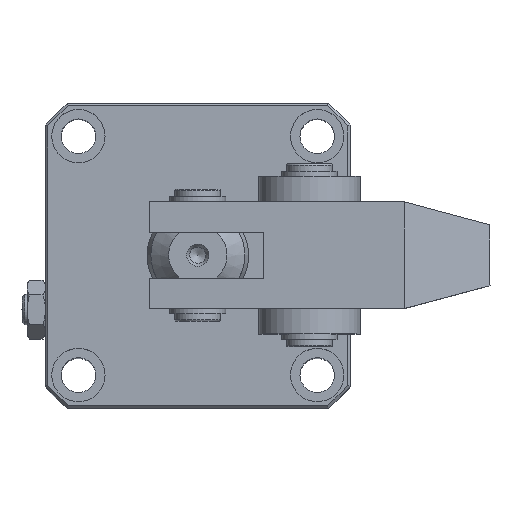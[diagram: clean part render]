
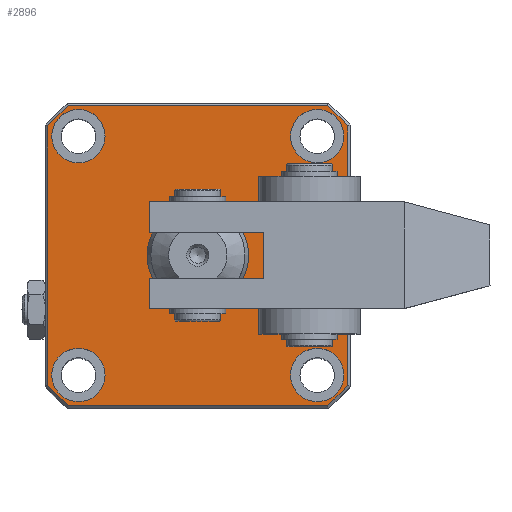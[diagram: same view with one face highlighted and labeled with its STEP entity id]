
A CAD part, top view. The second image highlights one B-rep face of the part: STEP entity #2896.
In plain terms, the highlighted planar face has unit normal (0, 0, 1).
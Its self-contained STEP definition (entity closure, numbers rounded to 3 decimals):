
#287=LINE('',#4420,#440);
#288=LINE('',#4423,#441);
#289=LINE('',#4425,#442);
#290=LINE('',#4429,#443);
#291=LINE('',#4433,#444);
#292=LINE('',#4437,#445);
#293=LINE('',#4441,#446);
#294=LINE('',#4443,#447);
#440=VECTOR('',#3553,1000.);
#441=VECTOR('',#3554,1000.);
#442=VECTOR('',#3555,1000.);
#443=VECTOR('',#3558,1000.);
#444=VECTOR('',#3561,1000.);
#445=VECTOR('',#3564,1000.);
#446=VECTOR('',#3567,1000.);
#447=VECTOR('',#3568,1000.);
#593=ORIENTED_EDGE('',*,*,#1377,.F.);
#594=ORIENTED_EDGE('',*,*,#1378,.F.);
#595=ORIENTED_EDGE('',*,*,#1379,.F.);
#596=ORIENTED_EDGE('',*,*,#1380,.F.);
#597=ORIENTED_EDGE('',*,*,#1381,.T.);
#598=ORIENTED_EDGE('',*,*,#1382,.T.);
#599=ORIENTED_EDGE('',*,*,#1383,.T.);
#600=ORIENTED_EDGE('',*,*,#1384,.T.);
#601=ORIENTED_EDGE('',*,*,#1385,.T.);
#602=ORIENTED_EDGE('',*,*,#1386,.T.);
#603=ORIENTED_EDGE('',*,*,#1387,.T.);
#604=ORIENTED_EDGE('',*,*,#1388,.T.);
#605=ORIENTED_EDGE('',*,*,#1389,.T.);
#606=ORIENTED_EDGE('',*,*,#1390,.T.);
#607=ORIENTED_EDGE('',*,*,#1391,.T.);
#608=ORIENTED_EDGE('',*,*,#1392,.T.);
#609=ORIENTED_EDGE('',*,*,#1393,.F.);
#1377=EDGE_CURVE('',#1769,#1769,#2043,.T.);
#1378=EDGE_CURVE('',#1770,#1770,#2044,.T.);
#1379=EDGE_CURVE('',#1771,#1771,#2045,.T.);
#1380=EDGE_CURVE('',#1772,#1772,#2046,.T.);
#1381=EDGE_CURVE('',#1773,#1773,#2047,.T.);
#1382=EDGE_CURVE('',#1774,#1775,#287,.T.);
#1383=EDGE_CURVE('',#1775,#1776,#288,.T.);
#1384=EDGE_CURVE('',#1776,#1777,#289,.T.);
#1385=EDGE_CURVE('',#1777,#1778,#2048,.T.);
#1386=EDGE_CURVE('',#1778,#1779,#290,.T.);
#1387=EDGE_CURVE('',#1779,#1780,#2049,.T.);
#1388=EDGE_CURVE('',#1780,#1781,#291,.T.);
#1389=EDGE_CURVE('',#1781,#1782,#2050,.T.);
#1390=EDGE_CURVE('',#1782,#1783,#292,.T.);
#1391=EDGE_CURVE('',#1783,#1784,#2051,.T.);
#1392=EDGE_CURVE('',#1784,#1785,#293,.T.);
#1393=EDGE_CURVE('',#1774,#1785,#294,.T.);
#1769=VERTEX_POINT('',#4411);
#1770=VERTEX_POINT('',#4413);
#1771=VERTEX_POINT('',#4415);
#1772=VERTEX_POINT('',#4417);
#1773=VERTEX_POINT('',#4419);
#1774=VERTEX_POINT('',#4421);
#1775=VERTEX_POINT('',#4422);
#1776=VERTEX_POINT('',#4424);
#1777=VERTEX_POINT('',#4426);
#1778=VERTEX_POINT('',#4428);
#1779=VERTEX_POINT('',#4430);
#1780=VERTEX_POINT('',#4432);
#1781=VERTEX_POINT('',#4434);
#1782=VERTEX_POINT('',#4436);
#1783=VERTEX_POINT('',#4438);
#1784=VERTEX_POINT('',#4440);
#1785=VERTEX_POINT('',#4442);
#2043=CIRCLE('',#3183,5.25);
#2044=CIRCLE('',#3184,5.25);
#2045=CIRCLE('',#3185,5.25);
#2046=CIRCLE('',#3186,5.25);
#2047=CIRCLE('',#3187,10.);
#2048=CIRCLE('',#3188,39.);
#2049=CIRCLE('',#3189,39.);
#2050=CIRCLE('',#3190,39.);
#2051=CIRCLE('',#3191,39.);
#2191=EDGE_LOOP('',(#593));
#2192=EDGE_LOOP('',(#594));
#2193=EDGE_LOOP('',(#595));
#2194=EDGE_LOOP('',(#596));
#2195=EDGE_LOOP('',(#597));
#2196=EDGE_LOOP('',(#598,#599,#600,#601,#602,#603,#604,#605,#606,#607,#608,
#609));
#2494=FACE_BOUND('',#2191,.T.);
#2495=FACE_BOUND('',#2192,.T.);
#2496=FACE_BOUND('',#2193,.T.);
#2497=FACE_BOUND('',#2194,.T.);
#2498=FACE_BOUND('',#2195,.T.);
#2499=FACE_BOUND('',#2196,.T.);
#2798=PLANE('',#3182);
#2896=ADVANCED_FACE('',(#2494,#2495,#2496,#2497,#2498,#2499),#2798,.T.);
#3182=AXIS2_PLACEMENT_3D('',#4409,#3541,#3542);
#3183=AXIS2_PLACEMENT_3D('',#4410,#3543,#3544);
#3184=AXIS2_PLACEMENT_3D('',#4412,#3545,#3546);
#3185=AXIS2_PLACEMENT_3D('',#4414,#3547,#3548);
#3186=AXIS2_PLACEMENT_3D('',#4416,#3549,#3550);
#3187=AXIS2_PLACEMENT_3D('',#4418,#3551,#3552);
#3188=AXIS2_PLACEMENT_3D('',#4427,#3556,#3557);
#3189=AXIS2_PLACEMENT_3D('',#4431,#3559,#3560);
#3190=AXIS2_PLACEMENT_3D('',#4435,#3562,#3563);
#3191=AXIS2_PLACEMENT_3D('',#4439,#3565,#3566);
#3541=DIRECTION('',(0.,0.,1.));
#3542=DIRECTION('',(1.,0.,0.));
#3543=DIRECTION('',(0.,0.,1.));
#3544=DIRECTION('',(1.,0.,0.));
#3545=DIRECTION('',(0.,0.,1.));
#3546=DIRECTION('',(1.,0.,0.));
#3547=DIRECTION('',(0.,0.,1.));
#3548=DIRECTION('',(1.,0.,0.));
#3549=DIRECTION('',(0.,0.,1.));
#3550=DIRECTION('',(1.,0.,0.));
#3551=DIRECTION('',(0.,0.,-1.));
#3552=DIRECTION('',(0.,-1.,0.));
#3553=DIRECTION('',(0.,1.,0.));
#3554=DIRECTION('',(1.,0.,0.));
#3555=DIRECTION('',(0.,1.,0.));
#3556=DIRECTION('',(0.,0.,1.));
#3557=DIRECTION('',(1.,0.,0.));
#3558=DIRECTION('',(-1.,0.,0.));
#3559=DIRECTION('',(0.,0.,1.));
#3560=DIRECTION('',(1.,0.,0.));
#3561=DIRECTION('',(0.,-1.,0.));
#3562=DIRECTION('',(0.,0.,1.));
#3563=DIRECTION('',(1.,0.,0.));
#3564=DIRECTION('',(1.,0.,0.));
#3565=DIRECTION('',(0.,0.,1.));
#3566=DIRECTION('',(1.,0.,0.));
#3567=DIRECTION('',(0.,1.,0.));
#3568=DIRECTION('',(1.,0.,0.));
#4409=CARTESIAN_POINT('',(0.,0.,85.));
#4410=CARTESIAN_POINT('',(23.5,-23.5,85.));
#4411=CARTESIAN_POINT('',(28.75,-23.5,85.));
#4412=CARTESIAN_POINT('',(-23.5,-23.5,85.));
#4413=CARTESIAN_POINT('',(-18.25,-23.5,85.));
#4414=CARTESIAN_POINT('',(-23.5,23.5,85.));
#4415=CARTESIAN_POINT('',(-18.25,23.5,85.));
#4416=CARTESIAN_POINT('',(23.5,23.5,85.));
#4417=CARTESIAN_POINT('',(28.75,23.5,85.));
#4418=CARTESIAN_POINT('',(0.,0.,85.));
#4419=CARTESIAN_POINT('',(0.,-10.,85.));
#4420=CARTESIAN_POINT('',(13.,-9.5,85.));
#4421=CARTESIAN_POINT('',(13.,-10.5,85.));
#4422=CARTESIAN_POINT('',(13.,10.5,85.));
#4423=CARTESIAN_POINT('',(14.,10.5,85.));
#4424=CARTESIAN_POINT('',(29.5,10.5,85.));
#4425=CARTESIAN_POINT('',(29.5,25.695,85.));
#4426=CARTESIAN_POINT('',(29.5,25.51,85.));
#4427=CARTESIAN_POINT('',(0.,0.,85.));
#4428=CARTESIAN_POINT('',(25.51,29.5,85.));
#4429=CARTESIAN_POINT('',(-25.695,29.5,85.));
#4430=CARTESIAN_POINT('',(-25.51,29.5,85.));
#4431=CARTESIAN_POINT('',(0.,0.,85.));
#4432=CARTESIAN_POINT('',(-29.5,25.51,85.));
#4433=CARTESIAN_POINT('',(-29.5,-25.695,85.));
#4434=CARTESIAN_POINT('',(-29.5,-25.51,85.));
#4435=CARTESIAN_POINT('',(0.,0.,85.));
#4436=CARTESIAN_POINT('',(-25.51,-29.5,85.));
#4437=CARTESIAN_POINT('',(25.695,-29.5,85.));
#4438=CARTESIAN_POINT('',(25.51,-29.5,85.));
#4439=CARTESIAN_POINT('',(0.,0.,85.));
#4440=CARTESIAN_POINT('',(29.5,-25.51,85.));
#4441=CARTESIAN_POINT('',(29.5,25.695,85.));
#4442=CARTESIAN_POINT('',(29.5,-10.5,85.));
#4443=CARTESIAN_POINT('',(14.,-10.5,85.));
